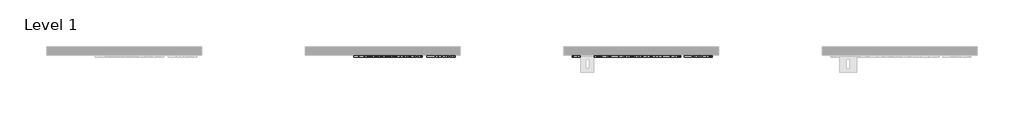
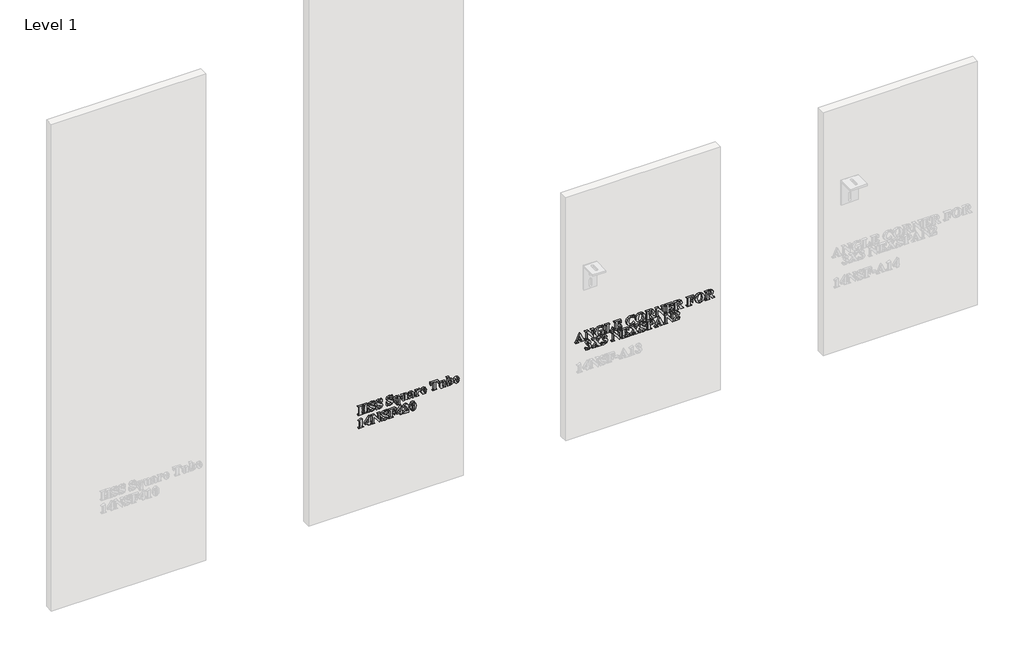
# One storey, part 3 of 21: 3 proxies.
"""IFC4 building model written with IfcOpenShell, lengths in millimetres."""

from ifc_helpers import new_model, si_unit, frame, origin, place, context, project, spatial, polyline, outline, extrude, element, save

model = new_model("IFC4")

# Units and contexts
model_context = context("Model", 3, world=origin())
ifc_project = project(units=[si_unit("LENGTHUNIT", "METRE", prefix="MILLI")], contexts=[model_context])

# Site, building, storey
site = spatial("IfcSite", under=ifc_project)
building = spatial("IfcBuilding", under=site)
storey = spatial("IfcBuildingStorey", under=building, Name="Level 1", Elevation=0.0)

# Proxies
placement = place(None, origin())
element("IfcBuildingElementProxy", 1, Name="2\"\" Arial", ObjectType="2\"\" Arial", at=placement, inside=storey, context=model_context, shape_type="SweptSolid", body=[
    extrude(outline(polyline([(625.0991907, 1089.2007456), (625.0991907, 1107.8156193), (609.1435847, 1107.8156193), (604.559118, 1107.4139591), (602.8139736, 1105.8904203), (602.0522042, 1102.3585804), (602.0522042, 1100.7242388), (600.2793591, 1100.7242388), (600.2793591, 1127.3169155), (602.0522042, 1127.3169155), (602.0522042, 1125.6825739), (602.7585722, 1122.303088), (604.4136893, 1120.6341205), (609.1435847, 1120.2255351), (643.7140644, 1120.2255351), (648.298531, 1120.6271953), (650.0436754, 1122.1507341), (650.8054448, 1125.6825739), (650.8054448, 1127.3169155), (652.5782899, 1127.3169155), (652.5782899, 1100.7242388), (650.8054448, 1100.7242388), (650.8054448, 1102.3585804), (650.0990768, 1105.7380664), (648.4439597, 1107.4070339), (643.7140644, 1107.8156193), (628.6448809, 1107.8156193), (628.6448809, 1089.2007456), (643.7140644, 1089.2007456), (648.298531, 1089.6024058), (650.0436754, 1091.1259446), (650.8054448, 1094.6300838), (650.8054448, 1096.2921261), (652.5782899, 1096.2921261), (652.5782899, 1069.6994494), (650.8054448, 1069.6994494), (650.8054448, 1071.375342), (650.0990768, 1074.7271273), (648.4439597, 1076.3822444), (643.7140644, 1076.7908298), (609.1435847, 1076.7908298), (604.559118, 1076.3891696), (602.8139736, 1074.8933315), (602.0522042, 1071.375342), (602.0522042, 1069.6994494), (600.2793591, 1069.6994494), (600.2793591, 1096.2921261), (602.0522042, 1096.2921261), (602.0522042, 1094.6300838), (602.7585722, 1091.2852237), (604.4136893, 1089.6231814), (609.1435847, 1089.2007456), (625.0991907, 1089.2007456)])), frame((0.0, -15490.3579358, 0.0), z_axis=(0.0, 1.0, 0.0), x_axis=(0.0, 0.0, 1.0)), (0.0, 0.0, 1.0), 12.7),
    extrude(outline(polyline([(653.4647125, 1168.0923531), (653.4647125, 1166.319508), (650.5284378, 1165.2114798), (649.9190223, 1163.5771382), (651.1586288, 1159.8167675), (652.855297, 1155.2669268), (653.4647125, 1150.1838474), (649.1364773, 1138.2517688), (638.6448354, 1133.5218734), (632.0382173, 1135.156215), (626.6019539, 1139.8376341), (620.6947786, 1150.6824601), (616.6504757, 1158.4386575), (613.3817925, 1161.7004155), (609.8222519, 1162.7738178), (604.3859886, 1160.1076249), (602.0522042, 1152.9400676), (606.366589, 1142.0883164), (618.8942328, 1135.2947185), (618.8942328, 1133.5218734), (599.3929366, 1133.5218734), (599.3929366, 1135.2947185), (602.0660546, 1137.1160399), (602.9386268, 1139.2559193), (602.0799049, 1142.3168472), (599.9538758, 1147.8639134), (599.3929366, 1152.5522577), (604.0743557, 1165.61314), (615.2654405, 1170.7516208), (624.365122, 1168.1339042), (632.813837, 1155.4469813), (637.3013512, 1146.3057487), (640.8608918, 1142.386099), (643.9218197, 1141.4996764), (648.7209668, 1143.9234881), (650.8054448, 1150.5024055), (646.6711146, 1160.5162103), (635.7362614, 1166.319508), (635.7362614, 1168.0923531), (653.4647125, 1168.0923531)])), frame((0.0, -15490.3579358, 0.0), z_axis=(0.0, 1.0, 0.0), x_axis=(0.0, 0.0, 1.0)), (0.0, 0.0, 1.0), 12.7),
    extrude(outline(polyline([(653.4647125, 1211.5270584), (653.4647125, 1209.7542133), (650.5284378, 1208.6461851), (649.9190223, 1207.0118435), (651.1586288, 1203.2514728), (652.855297, 1198.701632), (653.4647125, 1193.6185527), (649.1364773, 1181.6864741), (638.6448354, 1176.9565787), (632.0382173, 1178.5909203), (626.6019539, 1183.2723394), (620.6947786, 1194.1171654), (616.6504757, 1201.8733627), (613.3817925, 1205.1351207), (609.8222519, 1206.2085231), (604.3859886, 1203.5423302), (602.0522042, 1196.3747728), (606.366589, 1185.5230217), (618.8942328, 1178.7294238), (618.8942328, 1176.9565787), (599.3929366, 1176.9565787), (599.3929366, 1178.7294238), (602.0660546, 1180.5507452), (602.9386268, 1182.6906246), (602.0799049, 1185.7515525), (599.9538758, 1191.2986186), (599.3929366, 1195.9869629), (604.0743557, 1209.0478453), (615.2654405, 1214.1863261), (624.365122, 1211.5686094), (632.813837, 1198.8816866), (637.3013512, 1189.740454), (640.8608918, 1185.8208043), (643.9218197, 1184.9343817), (648.7209668, 1187.3581934), (650.8054448, 1193.9371108), (646.6711146, 1203.9509156), (635.7362614, 1209.7542133), (635.7362614, 1211.5270584), (653.4647125, 1211.5270584)])), frame((0.0, -15490.3579358, 0.0), z_axis=(0.0, 1.0, 0.0), x_axis=(0.0, 0.0, 1.0)), (0.0, 0.0, 1.0), 12.7),
    extrude(outline(polyline([(653.4647125, 1274.4630599), (653.4647125, 1272.6902148), (650.5284378, 1271.5821866), (649.9190223, 1269.947845), (651.1586288, 1266.1874743), (652.855297, 1261.6376335), (653.4647125, 1256.5545542), (649.1364773, 1244.6224756), (638.6448354, 1239.8925802), (632.0382173, 1241.5269218), (626.6019539, 1246.2083409), (620.6947786, 1257.0531669), (616.6504757, 1264.8093642), (613.3817925, 1268.0711222), (609.8222519, 1269.1445246), (604.3859886, 1266.4783317), (602.0522042, 1259.3107743), (606.366589, 1248.4590232), (618.8942328, 1241.6654253), (618.8942328, 1239.8925802), (599.3929366, 1239.8925802), (599.3929366, 1241.6654253), (602.0660546, 1243.4867467), (602.9386268, 1245.6266261), (602.0799049, 1248.687554), (599.9538758, 1254.2346201), (599.3929366, 1258.9229645), (604.0743557, 1271.9838468), (615.2654405, 1277.1223276), (624.365122, 1274.5046109), (632.813837, 1261.8176881), (637.3013512, 1252.6764555), (640.8608918, 1248.7568058), (643.9218197, 1247.8703832), (648.7209668, 1250.2941949), (650.8054448, 1256.8731123), (646.6711146, 1266.8869171), (635.7362614, 1272.6902148), (635.7362614, 1274.4630599), (653.4647125, 1274.4630599)])), frame((0.0, -15490.3579358, 0.0), z_axis=(0.0, 1.0, 0.0), x_axis=(0.0, 0.0, 1.0)), (0.0, 0.0, 1.0), 12.7),
    extrude(outline(polyline([(604.2544103, 1305.4878494), (589.6422884, 1305.4878494), (586.7683403, 1305.0861891), (585.6395366, 1303.6111266), (585.2101756, 1300.169314), (583.4373305, 1300.169314), (583.4373305, 1319.6706103), (585.2101756, 1319.6706103), (586.7475648, 1316.595832), (591.4151335, 1316.12492), (636.6226839, 1314.864538), (633.0769937, 1309.0335396), (635.7431865, 1304.8645835), (636.6226839, 1299.3244425), (634.0880694, 1290.501768), (626.761233, 1283.9436261), (616.5258225, 1281.5544403), (605.2931867, 1284.68462), (600.8679991, 1289.3452636), (599.3929366, 1295.4324935), (600.7779718, 1301.0834373), (604.2544103, 1305.4878494)]), holes=[polyline([(607.6892977, 1305.4878494), (604.7530229, 1301.935234), (603.8250493, 1298.6180746), (606.013405, 1294.5045199), (617.2460408, 1292.191511), (631.4703528, 1294.8784794), (633.9634162, 1299.6707013), (633.2570483, 1302.1499144), (629.9121882, 1304.7745562), (621.9967117, 1305.4878494), (607.6892977, 1305.4878494)])]), frame((0.0, -15490.3579358, 0.0), z_axis=(0.0, 1.0, 0.0), x_axis=(0.0, 0.0, 1.0)), (0.0, 0.0, 1.0), 12.7),
    extrude(outline(polyline([(635.7362614, 1359.5596253), (635.7362614, 1345.3768644), (633.9634162, 1345.3768644), (632.6891838, 1348.2369622), (627.7584584, 1348.9225546), (609.2959385, 1348.9225546), (605.4178399, 1345.4876672), (604.7114719, 1343.1746584), (605.2724112, 1341.471065), (606.9206031, 1340.3976627), (611.7613013, 1340.0583291), (635.7362614, 1340.0583291), (635.7362614, 1325.8755682), (633.9634162, 1325.8755682), (632.6891838, 1328.7356659), (627.7584584, 1329.4212584), (613.9081059, 1329.4212584), (605.4386154, 1330.1968781), (601.2004075, 1333.2439557), (599.3929366, 1338.4378378), (600.7017949, 1343.9710536), (605.0992818, 1348.9225546), (600.2793591, 1348.9225546), (600.2793591, 1363.1053155), (602.0522042, 1363.1053155), (603.2987359, 1360.2590681), (608.2571621, 1359.5596253), (635.7362614, 1359.5596253)])), frame((0.0, -15490.3579358, 0.0), z_axis=(0.0, 1.0, 0.0), x_axis=(0.0, 0.0, 1.0)), (0.0, 0.0, 1.0), 12.7),
    extrude(outline(polyline([(605.5978944, 1387.9251471), (600.9372508, 1389.8503461), (599.3929366, 1394.2270575), (600.7225704, 1398.4860408), (605.5286427, 1400.9583288), (605.9303029, 1398.7007213), (608.9635301, 1398.5622178), (622.6199776, 1398.5622178), (629.8914126, 1398.022054), (634.4966548, 1394.1093295), (636.6226839, 1385.9306964), (635.3069004, 1377.703587), (631.518829, 1371.5263298), (626.3318721, 1369.3102734), (622.9870119, 1370.944615), (621.5535005, 1375.0166186), (622.8762091, 1378.6938872), (626.0687154, 1380.099698), (629.2542964, 1378.645411), (631.2487472, 1377.5650835), (632.8553881, 1378.5623089), (633.9634162, 1382.8005167), (633.167021, 1385.7090907), (631.3041486, 1387.4611603), (626.1241168, 1387.9251471), (622.4676237, 1387.9251471), (613.7765276, 1372.0664936), (606.4289156, 1368.4238509), (601.4012377, 1370.5221793), (599.3929366, 1375.778388), (605.5978944, 1387.9251471)]), holes=[polyline([(608.2571621, 1387.9251471), (605.5978944, 1383.2298776), (606.6505212, 1380.3905554), (609.8222519, 1379.0609215), (614.0881605, 1380.6398617), (620.0299617, 1387.9251471), (608.2571621, 1387.9251471)])]), frame((0.0, -15490.3579358, 0.0), z_axis=(0.0, 1.0, 0.0), x_axis=(0.0, 0.0, 1.0)), (0.0, 0.0, 1.0), 12.7),
    extrude(outline(polyline([(635.7362614, 1423.3820494), (635.7362614, 1409.1992885), (633.9634162, 1409.1992885), (633.2708986, 1411.4845966), (631.6919584, 1412.4679716), (627.7584584, 1412.7449787), (608.2571621, 1412.7449787), (603.1810079, 1412.01091), (602.0522042, 1409.1992885), (600.2793591, 1409.1992885), (600.2793591, 1426.9277396), (602.0522042, 1426.9277396), (602.592368, 1424.6147307), (603.9635529, 1423.5898046), (606.484317, 1423.3820494), (608.6172713, 1423.3820494), (616.8305303, 1423.3820494), (624.9883879, 1424.7116832), (628.686432, 1427.3016991), (629.2542964, 1430.2241235), (627.5299275, 1431.4914307), (625.9856132, 1434.01912), (627.4260499, 1437.7794907), (631.4842032, 1439.3376554), (635.2791997, 1437.8902935), (636.6226839, 1434.01912), (634.8913899, 1429.1991974), (627.5784038, 1423.3820494), (635.7362614, 1423.3820494)])), frame((0.0, -15490.3579358, 0.0), z_axis=(0.0, 1.0, 0.0), x_axis=(0.0, 0.0, 1.0)), (0.0, 0.0, 1.0), 12.7),
    extrude(outline(polyline([(619.7806553, 1474.7945576), (632.3775509, 1470.327819), (636.6226839, 1460.5563953), (631.4218766, 1448.7905209), (617.4260954, 1443.7697682), (605.4039895, 1447.1769549), (600.8956998, 1452.429701), (599.3929366, 1459.6838231), (602.0106532, 1468.1256129), (611.8028523, 1473.4787741), (606.9483038, 1469.2959677), (605.5978944, 1464.9608074), (608.7142237, 1458.3541893), (619.7806553, 1454.4068388), (619.7806553, 1474.7945576)]), holes=[polyline([(622.439923, 1465.0439095), (623.658754, 1454.4068388), (632.1767208, 1456.7198477), (633.9634162, 1460.0439323), (633.3401504, 1462.232288), (630.1545693, 1464.3583171), (622.439923, 1465.0439095)])]), frame((0.0, -15490.3579358, 0.0), z_axis=(0.0, 1.0, 0.0), x_axis=(0.0, 0.0, 1.0)), (0.0, 0.0, 1.0), 12.7),
    extrude(outline(polyline([(652.5782899, 1545.7083621), (652.5782899, 1499.6143892), (637.5091065, 1499.6143892), (637.5091065, 1501.3872343), (646.7195908, 1505.4869386), (649.0325997, 1512.9107275), (649.0325997, 1516.4564178), (609.1435847, 1516.4564178), (604.559118, 1516.0547576), (602.8139736, 1514.5312188), (602.0522042, 1511.0270796), (602.0522042, 1509.3650373), (600.2793591, 1509.3650373), (600.2793591, 1535.957714), (602.0522042, 1535.957714), (602.0522042, 1534.3095221), (602.7585722, 1530.9438864), (604.4136893, 1529.2887693), (609.1435847, 1528.8663336), (649.0325997, 1528.8663336), (649.0325997, 1532.4120238), (648.3123814, 1537.3427493), (644.7874667, 1541.3039501), (637.5091065, 1543.935517), (637.5091065, 1545.7083621), (652.5782899, 1545.7083621)])), frame((0.0, -15490.3579358, 0.0), z_axis=(0.0, 1.0, 0.0), x_axis=(0.0, 0.0, 1.0)), (0.0, 0.0, 1.0), 12.7),
    extrude(outline(polyline([(635.7362614, 1585.5973772), (635.7362614, 1571.4146163), (633.9634162, 1571.4146163), (632.6891838, 1574.274714), (627.7584584, 1574.9603065), (609.2959385, 1574.9603065), (605.4178399, 1571.5254191), (604.7114719, 1569.2124102), (605.2724112, 1567.5088169), (606.9206031, 1566.4354146), (611.7613013, 1566.0960809), (635.7362614, 1566.0960809), (635.7362614, 1551.91332), (633.9634162, 1551.91332), (632.6891838, 1554.7734178), (627.7584584, 1555.4590103), (613.9081059, 1555.4590103), (605.4386154, 1556.23463), (601.2004075, 1559.2817075), (599.3929366, 1564.4755897), (600.7017949, 1570.0088055), (605.0992818, 1574.9603065), (600.2793591, 1574.9603065), (600.2793591, 1589.1430674), (602.0522042, 1589.1430674), (603.2987359, 1586.29682), (608.2571621, 1585.5973772), (635.7362614, 1585.5973772)])), frame((0.0, -15490.3579358, 0.0), z_axis=(0.0, 1.0, 0.0), x_axis=(0.0, 0.0, 1.0)), (0.0, 0.0, 1.0), 12.7),
    extrude(outline(polyline([(652.5782899, 1609.5307862), (652.5782899, 1595.3480253), (650.8054448, 1595.3480253), (650.1891041, 1597.6679593), (648.5478374, 1598.6721099), (644.6004869, 1598.8937155), (599.3929366, 1600.1679479), (602.9386268, 1605.985096), (600.2239577, 1610.4864605), (599.3929366, 1615.7218937), (601.8513741, 1624.7661739), (609.0050811, 1631.0957849), (619.4482469, 1633.4641952), (628.4648263, 1631.608248), (634.4966548, 1626.4766924), (636.6226839, 1619.4891896), (631.9274144, 1609.5307862), (652.5782899, 1609.5307862)]), holes=[polyline([(628.5617788, 1609.5307862), (632.1905711, 1616.3036085), (630.0299162, 1620.6110681), (619.0050356, 1622.8271245), (607.426141, 1621.822974), (603.1325317, 1619.3229854), (602.0522042, 1615.7218937), (603.4164639, 1611.7468426), (606.9829297, 1609.7800925), (613.0355337, 1609.5307862), (628.5617788, 1609.5307862)])]), frame((0.0, -15490.3579358, 0.0), z_axis=(0.0, 1.0, 0.0), x_axis=(0.0, 0.0, 1.0)), (0.0, 0.0, 1.0), 12.7),
    extrude(outline(polyline([(619.7806553, 1668.9210975), (632.3775509, 1664.4543588), (636.6226839, 1654.6829352), (631.4218766, 1642.9170608), (617.4260954, 1637.896308), (605.4039895, 1641.3034947), (600.8956998, 1646.5562409), (599.3929366, 1653.8103629), (602.0106532, 1662.2521528), (611.8028523, 1667.605314), (606.9483038, 1663.4225075), (605.5978944, 1659.0873472), (608.7142237, 1652.4807291), (619.7806553, 1648.5333787), (619.7806553, 1668.9210975)]), holes=[polyline([(622.439923, 1659.1704493), (623.658754, 1648.5333787), (632.1767208, 1650.8463875), (633.9634162, 1654.1704721), (633.3401504, 1656.3588278), (630.1545693, 1658.4848569), (622.439923, 1659.1704493)])]), frame((0.0, -15490.3579358, 0.0), z_axis=(0.0, 1.0, 0.0), x_axis=(0.0, 0.0, 1.0)), (0.0, 0.0, 1.0), 12.7),
])
element("IfcBuildingElementProxy", 2, Name="2\"\" Arial", ObjectType="2\"\" Arial", at=placement, inside=storey, context=model_context, shape_type="SweptSolid", body=[
    extrude(outline(polyline([(570.9147125, 1093.0026674), (562.0504869, 1073.2451396), (560.2776418, 1073.9099565), (561.5103232, 1078.4667225), (560.873207, 1080.5442753), (559.3565934, 1081.7769567), (554.9591065, 1082.1093652), (528.3664298, 1082.1093652), (522.2999754, 1081.5899769), (520.2501233, 1079.6024514), (519.5022042, 1073.2451396), (517.7293591, 1073.2451396), (517.7293591, 1101.6106614), (519.5022042, 1100.37798), (520.319375, 1095.9043162), (522.4246286, 1094.0691445), (528.3664298, 1093.6328584), (570.9147125, 1093.0026674)])), frame((0.0, -15490.3579358, 0.0), z_axis=(0.0, 1.0, 0.0), x_axis=(0.0, 0.0, 1.0)), (0.0, 0.0, 1.0), 12.7),
    extrude(outline(polyline([(537.2306553, 1110.474887), (529.2528523, 1110.474887), (529.2528523, 1129.0897607), (517.7293591, 1129.0897607), (517.7293591, 1140.6132539), (529.2528523, 1140.6132539), (529.2528523, 1145.0453667), (537.2306553, 1145.0453667), (537.2306553, 1140.6132539), (570.9147125, 1140.6132539), (570.9147125, 1135.5024738), (537.2306553, 1110.474887)]), holes=[polyline([(537.2306553, 1113.1618553), (558.6571506, 1129.0897607), (537.2306553, 1129.0897607), (537.2306553, 1113.1618553)])]), frame((0.0, -15490.3579358, 0.0), z_axis=(0.0, 1.0, 0.0), x_axis=(0.0, 0.0, 1.0)), (0.0, 0.0, 1.0), 12.7),
    extrude(outline(polyline([(570.0282899, 1167.6768426), (570.0282899, 1149.2558738), (568.2554448, 1149.2558738), (567.6529545, 1152.919292), (564.5019993, 1156.5688599), (526.5935847, 1156.5688599), (521.143471, 1155.0106952), (519.5022042, 1149.4774794), (517.7293591, 1149.4774794), (517.7293591, 1167.2059306), (519.5022042, 1166.1117527), (520.9634164, 1161.9358715), (526.5935847, 1160.1145501), (560.0006348, 1160.1145501), (516.8429366, 1193.9371108), (516.8429366, 1195.5714524), (559.3912193, 1195.5714524), (564.8274826, 1196.2293441), (567.1127907, 1198.0645158), (568.2554448, 1202.6628328), (570.0282899, 1202.6628328), (570.0282899, 1184.9343817), (568.2554448, 1184.9343817), (566.0116877, 1190.7653801), (559.3912193, 1192.0257622), (538.9619494, 1192.0257622), (570.0282899, 1167.6768426)])), frame((0.0, -15490.3579358, 0.0), z_axis=(0.0, 1.0, 0.0), x_axis=(0.0, 0.0, 1.0)), (0.0, 0.0, 1.0), 12.7),
    extrude(outline(polyline([(570.9147125, 1243.4382704), (570.9147125, 1241.6654253), (567.9784378, 1240.5573971), (567.3690223, 1238.9230555), (568.6086288, 1235.1626848), (570.305297, 1230.6128441), (570.9147125, 1225.5297647), (566.5864773, 1213.5976861), (556.0948354, 1208.8677907), (549.4882173, 1210.5021323), (544.0519539, 1215.1835514), (538.1447786, 1226.0283774), (534.1004757, 1233.7845748), (530.8317925, 1237.0463328), (527.2722519, 1238.1197351), (521.8359886, 1235.4535422), (519.5022042, 1228.2859848), (523.816589, 1217.4342337), (536.3442328, 1210.6406358), (536.3442328, 1208.8677907), (516.8429366, 1208.8677907), (516.8429366, 1210.6406358), (519.5160546, 1212.4619572), (520.3886268, 1214.6018366), (519.5299049, 1217.6627645), (517.4038758, 1223.2098307), (516.8429366, 1227.898175), (521.5243557, 1240.9590573), (532.7154405, 1246.0975381), (541.815122, 1243.4798215), (550.263837, 1230.7928986), (554.7513512, 1221.651666), (558.3108918, 1217.7320163), (561.3718197, 1216.8455937), (566.1709668, 1219.2694054), (568.2554448, 1225.8483228), (564.1211146, 1235.8621276), (553.1862614, 1241.6654253), (553.1862614, 1243.4382704), (570.9147125, 1243.4382704)])), frame((0.0, -15490.3579358, 0.0), z_axis=(0.0, 1.0, 0.0), x_axis=(0.0, 0.0, 1.0)), (0.0, 0.0, 1.0), 12.7),
    extrude(outline(polyline([(566.4825997, 1270.0309471), (566.4825997, 1274.4630599), (565.8870346, 1283.0225777), (562.1751401, 1289.4352909), (554.0726839, 1292.191511), (554.0726839, 1293.9643561), (570.0282899, 1293.9643561), (570.0282899, 1250.5296509), (568.2554448, 1250.5296509), (568.2554448, 1252.2055435), (567.5490768, 1255.5573288), (565.8939597, 1257.2124459), (561.1640644, 1257.6210313), (526.5935847, 1257.6210313), (522.009118, 1257.2193711), (520.2639736, 1255.723533), (519.5022042, 1252.2055435), (519.5022042, 1250.5296509), (517.7293591, 1250.5296509), (517.7293591, 1277.1223276), (519.5022042, 1277.1223276), (519.5022042, 1275.4602853), (520.2085722, 1272.1154252), (521.8636893, 1270.4533829), (526.5935847, 1270.0309471), (542.5491907, 1270.0309471), (542.5491907, 1271.8037922), (540.1323042, 1278.7151181), (530.1392749, 1282.4408629), (530.1392749, 1284.213708), (558.5047967, 1284.213708), (558.5047967, 1282.4408629), (551.1225588, 1280.5849157), (547.2444602, 1277.101552), (546.0948809, 1271.8037922), (546.0948809, 1270.0309471), (566.4825997, 1270.0309471)])), frame((0.0, -15490.3579358, 0.0), z_axis=(0.0, 1.0, 0.0), x_axis=(0.0, 0.0, 1.0)), (0.0, 0.0, 1.0), 12.7),
    extrude(outline(polyline([(537.2306553, 1298.3964689), (529.2528523, 1298.3964689), (529.2528523, 1317.0113426), (517.7293591, 1317.0113426), (517.7293591, 1328.5348358), (529.2528523, 1328.5348358), (529.2528523, 1332.9669486), (537.2306553, 1332.9669486), (537.2306553, 1328.5348358), (570.9147125, 1328.5348358), (570.9147125, 1323.4240558), (537.2306553, 1298.3964689)]), holes=[polyline([(537.2306553, 1301.0834373), (558.6571506, 1317.0113426), (537.2306553, 1317.0113426), (537.2306553, 1301.0834373)])]), frame((0.0, -15490.3579358, 0.0), z_axis=(0.0, 1.0, 0.0), x_axis=(0.0, 0.0, 1.0)), (0.0, 0.0, 1.0), 12.7),
    extrude(outline(polyline([(517.7293591, 1367.9390885), (532.7985426, 1369.5595798), (529.709914, 1367.4612514), (528.6711375, 1365.4252496), (528.3664298, 1360.0720883), (528.3664298, 1348.9087043), (547.9369778, 1365.6260797), (558.1723882, 1368.4238509), (564.1072643, 1366.5332778), (569.0933911, 1361.3047697), (570.9147125, 1353.9225319), (567.4105733, 1343.9295026), (556.0948354, 1338.9087498), (560.561574, 1343.0777059), (562.0504869, 1348.6593979), (559.3704437, 1355.1344377), (552.6460976, 1357.7867802), (541.2749583, 1354.6843012), (517.7293591, 1336.5126388), (517.7293591, 1367.9390885)])), frame((0.0, -15490.3579358, 0.0), z_axis=(0.0, 1.0, 0.0), x_axis=(0.0, 0.0, 1.0)), (0.0, 0.0, 1.0), 12.7),
    extrude(outline(polyline([(543.8788245, 1412.7449787), (559.5435731, 1410.0995614), (567.8330091, 1404.150835), (570.9147125, 1395.4458885), (567.791458, 1386.7478671), (558.8095045, 1380.6260114), (543.269409, 1378.174499), (531.164201, 1379.8780923), (524.2390248, 1382.9113195), (518.7542852, 1388.4445353), (516.8429366, 1395.4458885), (518.394176, 1401.7200981), (522.5908328, 1406.8724292), (529.3636552, 1410.4873712), (543.8788245, 1412.7449787)]), holes=[polyline([(543.8788245, 1401.2214854), (527.3692044, 1401.0414309), (520.7348856, 1398.9500276), (519.5022042, 1395.6813445), (520.4232527, 1392.4472872), (524.0728205, 1390.5705644), (538.8926976, 1389.6979922), (562.5906507, 1390.2658567), (567.3274712, 1392.4542124), (568.2554448, 1395.4181878), (567.0227635, 1398.9500276), (559.8067298, 1401.0414309), (543.8788245, 1401.2214854)])]), frame((0.0, -15490.3579358, 0.0), z_axis=(0.0, 1.0, 0.0), x_axis=(0.0, 0.0, 1.0)), (0.0, 0.0, 1.0), 12.7),
])
element("IfcBuildingElementProxy", 3, Name="2\"\" Arial", ObjectType="2\"\" Arial", at=placement, inside=storey, context=model_context, shape_type="SweptSolid", body=[
    extrude(outline(polyline([(615.3485426, 2390.1620487), (608.7003734, 2393.0844731), (604.559118, 2394.4695083), (602.869375, 2393.6246368), (602.0522042, 2388.3061015), (600.2793591, 2388.3061015), (600.2793591, 2413.7076479), (602.0522042, 2413.7076479), (603.4095388, 2410.0096038), (610.9025794, 2405.577491), (653.4647125, 2385.9238409), (612.066009, 2367.1012119), (604.3375124, 2362.6344732), (602.0522042, 2358.0153807), (600.2793591, 2358.0153807), (600.2793591, 2375.7853829), (602.0522042, 2375.7853829), (602.9386268, 2370.6607525), (606.0272554, 2368.8879074), (610.0300072, 2369.9682349), (615.3485426, 2372.3781962), (615.3485426, 2390.1620487)]), holes=[polyline([(618.8942328, 2388.6108092), (618.8942328, 2373.9848371), (635.2376487, 2381.3947756), (618.8942328, 2388.6108092)])]), frame((0.0, -15490.3579358, 0.0), z_axis=(0.0, 1.0, 0.0), x_axis=(0.0, 0.0, 1.0)), (0.0, 0.0, 1.0), 12.7),
    extrude(outline(polyline([(652.5782899, 2433.6798561), (652.5782899, 2415.2588873), (650.8054448, 2415.2588873), (650.2029545, 2418.9223056), (647.0519993, 2422.5718734), (609.1435847, 2422.5718734), (603.693471, 2421.0137088), (602.0522042, 2415.480493), (600.2793591, 2415.480493), (600.2793591, 2433.2089441), (602.0522042, 2432.1147663), (603.5134164, 2427.938885), (609.1435847, 2426.1175637), (642.5506348, 2426.1175637), (599.3929366, 2459.9401243), (599.3929366, 2461.5744659), (641.9412193, 2461.5744659), (647.3774826, 2462.2323577), (649.6627907, 2464.0675294), (650.8054448, 2468.6658464), (652.5782899, 2468.6658464), (652.5782899, 2450.9373952), (650.8054448, 2450.9373952), (648.5616877, 2456.7683936), (641.9412193, 2458.0287757), (621.5119494, 2458.0287757), (652.5782899, 2433.6798561)])), frame((0.0, -15490.3579358, 0.0), z_axis=(0.0, 1.0, 0.0), x_axis=(0.0, 0.0, 1.0)), (0.0, 0.0, 1.0), 12.7),
    extrude(outline(polyline([(653.4647125, 2523.6240449), (653.4647125, 2521.8511997), (650.6600161, 2520.2237833), (649.9190223, 2518.2916592), (651.2625064, 2513.9841996), (652.896848, 2508.7072153), (653.4647125, 2501.975944), (651.4564114, 2490.9285566), (645.4315081, 2481.9414092), (636.4945682, 2475.9736386), (625.7501572, 2473.9843817), (613.9773577, 2476.6020983), (606.6505212, 2482.287668), (601.3943125, 2490.6809816), (599.3929366, 2502.6546113), (600.4663389, 2513.5271379), (603.6449948, 2523.6240449), (615.3485426, 2523.6240449), (618.3402187, 2523.9703037), (620.002261, 2525.750074), (620.6670779, 2529.8290028), (622.439923, 2529.8290028), (622.439923, 2504.1227486), (620.6670779, 2505.5354846), (620.0576624, 2508.9288209), (618.6864775, 2510.7709178), (615.3485426, 2511.2141291), (603.6449948, 2511.2141291), (602.4607896, 2507.4329829), (602.0522042, 2503.8457416), (604.7114719, 2495.1269447), (613.0355337, 2489.8153345), (626.2210692, 2488.1671426), (638.3193521, 2489.6837562), (647.5090609, 2494.8499377), (650.8054448, 2503.9980954), (646.961972, 2514.5866899), (635.7362614, 2521.8511997), (635.7362614, 2523.6240449), (653.4647125, 2523.6240449)])), frame((0.0, -15490.3579358, 0.0), z_axis=(0.0, 1.0, 0.0), x_axis=(0.0, 0.0, 1.0)), (0.0, 0.0, 1.0), 12.7),
    extrude(outline(polyline([(619.7806553, 2582.1279336), (619.7806553, 2580.3550885), (610.1269597, 2576.5600919), (605.3416629, 2571.809421), (603.8250493, 2564.9396462), (603.8250493, 2560.6321866), (604.1713081, 2556.0200192), (605.7848742, 2554.2194734), (610.8333277, 2553.7624118), (643.7140644, 2553.7624118), (648.298531, 2554.1363713), (650.0436754, 2555.5491072), (650.8054448, 2558.8177904), (650.8054448, 2560.8537922), (652.5782899, 2560.8537922), (652.5782899, 2534.2611155), (650.8054448, 2534.2611155), (650.8054448, 2535.9370082), (650.0990768, 2539.2887935), (648.4439597, 2540.9439106), (643.7140644, 2541.352496), (609.1435847, 2541.352496), (604.559118, 2540.9508358), (602.8139736, 2539.4549977), (602.0522042, 2535.9370082), (602.0522042, 2534.2611155), (600.2793591, 2534.2611155), (600.2793591, 2580.3550885), (619.7806553, 2582.1279336)])), frame((0.0, -15490.3579358, 0.0), z_axis=(0.0, 1.0, 0.0), x_axis=(0.0, 0.0, 1.0)), (0.0, 0.0, 1.0), 12.7),
    extrude(outline(polyline([(649.0325997, 2606.0613426), (649.0325997, 2610.4934554), (648.3400821, 2618.5266598), (644.7320653, 2624.2191546), (636.6226839, 2627.3354839), (636.6226839, 2629.1083291), (652.5782899, 2629.1083291), (652.5782899, 2586.5600464), (650.8054448, 2586.5600464), (650.8054448, 2588.235939), (649.7805187, 2592.086337), (647.827619, 2593.4713722), (643.7140644, 2593.6514268), (609.1435847, 2593.6514268), (604.559118, 2593.2497666), (602.8139736, 2591.7539285), (602.0522042, 2588.235939), (602.0522042, 2586.5600464), (600.2793591, 2586.5600464), (600.2793591, 2630.3687111), (616.8859317, 2631.3105351), (606.4427659, 2625.1956045), (602.9386268, 2613.8729414), (602.9386268, 2610.8535645), (603.5549675, 2607.7372352), (605.1339076, 2606.4145266), (610.4039667, 2606.0613426), (625.0991907, 2606.0613426), (624.0950401, 2611.068245), (620.1753904, 2614.1014722), (612.6892749, 2615.8119907), (612.6892749, 2617.5848358), (640.1683741, 2617.5848358), (640.1683741, 2615.8119907), (630.9024884, 2613.3050769), (627.7584584, 2606.0613426), (649.0325997, 2606.0613426)])), frame((0.0, -15490.3579358, 0.0), z_axis=(0.0, 1.0, 0.0), x_axis=(0.0, 0.0, 1.0)), (0.0, 0.0, 1.0), 12.7),
    extrude(outline(polyline([(653.4647125, 2707.9999366), (653.4647125, 2706.2270915), (650.7708189, 2705.0775122), (649.9190223, 2702.986109), (651.2209554, 2698.5816969), (653.4647125, 2687.1967072), (649.8012943, 2673.394831), (639.5035572, 2663.0693933), (625.4731502, 2659.246696), (612.2460636, 2662.7162093), (602.710096, 2672.570735), (599.3929366, 2687.1828569), (601.4220132, 2698.1107849), (607.9663047, 2707.113514), (612.4676693, 2707.113514), (605.0785062, 2698.740976), (602.9386268, 2689.9944784), (605.854126, 2680.5208373), (614.4551948, 2675.1469006), (627.0797911, 2673.4294569), (639.8636664, 2675.7563161), (647.1420266, 2681.490362), (649.9190223, 2690.1052812), (646.2625292, 2700.1675623), (635.7362614, 2706.2270915), (635.7362614, 2707.9999366), (653.4647125, 2707.9999366)])), frame((0.0, -15490.3579358, 0.0), z_axis=(0.0, 1.0, 0.0), x_axis=(0.0, 0.0, 1.0)), (0.0, 0.0, 1.0), 12.7),
    extrude(outline(polyline([(653.4647125, 2743.11058), (651.8788471, 2732.5687305), (646.1794271, 2723.8239642), (637.4606302, 2717.9392957), (626.8166344, 2715.9777396), (617.1733265, 2717.4839654), (608.9358294, 2722.0026429), (601.7786598, 2731.2200524), (599.3929366, 2743.6091927), (601.8929252, 2755.9671697), (609.392891, 2765.1741915), (626.8581854, 2770.9359381), (637.4969874, 2769.0038139), (646.2002026, 2763.2074414), (651.884041, 2754.3189777), (653.4647125, 2743.11058)]), holes=[polyline([(650.8054448, 2743.5676416), (648.6863409, 2750.1811849), (641.4356814, 2754.9041551), (625.9440622, 2756.7531772), (611.8444034, 2754.938781), (603.9774032, 2749.869552), (602.0522042, 2743.4983899), (606.5120177, 2734.6757154), (626.2487699, 2730.1605005), (643.4924587, 2733.0829248), (648.9771983, 2737.5046499), (650.8054448, 2743.5676416)])]), frame((0.0, -15490.3579358, 0.0), z_axis=(0.0, 1.0, 0.0), x_axis=(0.0, 0.0, 1.0)), (0.0, 0.0, 1.0), 12.7),
    extrude(outline(polyline([(624.2127681, 2794.8693471), (624.2127681, 2798.3042345), (600.2793591, 2815.0908617), (600.2793591, 2831.2126719), (602.0522042, 2831.2126719), (603.3956884, 2827.9439887), (607.7723998, 2824.7999587), (625.4592998, 2812.3900429), (628.9911397, 2819.3429199), (638.395529, 2823.2348689), (646.5326111, 2820.4717236), (651.2902072, 2813.3387921), (652.5782899, 2799.5369159), (652.5782899, 2775.3680509), (650.8054448, 2775.3680509), (650.2029545, 2780.1533476), (648.5963136, 2781.9469683), (643.7140644, 2782.4594313), (609.1435847, 2782.4594313), (604.2751858, 2781.9469683), (602.6685449, 2780.1741232), (602.0522042, 2775.3680509), (600.2793591, 2775.3680509), (600.2793591, 2801.9607275), (602.0522042, 2801.9607275), (602.6546946, 2797.1754308), (604.2613354, 2795.3818101), (609.1435847, 2794.8693471), (624.2127681, 2794.8693471)]), holes=[polyline([(649.9190223, 2794.8693471), (649.9190223, 2798.9967521), (647.0450741, 2808.0271819), (638.160073, 2810.8249531), (631.4288018, 2809.3014143), (627.862336, 2805.1116827), (626.8720358, 2797.0715531), (626.8720358, 2794.8693471), (649.9190223, 2794.8693471)])]), frame((0.0, -15490.3579358, 0.0), z_axis=(0.0, 1.0, 0.0), x_axis=(0.0, 0.0, 1.0)), (0.0, 0.0, 1.0), 12.7),
    extrude(outline(polyline([(652.5782899, 2850.2984576), (652.5782899, 2831.8774888), (650.8054448, 2831.8774888), (650.2029545, 2835.540907), (647.0519993, 2839.1904749), (609.1435847, 2839.1904749), (603.693471, 2837.6323103), (602.0522042, 2832.0990945), (600.2793591, 2832.0990945), (600.2793591, 2849.8275456), (602.0522042, 2848.7333677), (603.5134164, 2844.5574865), (609.1435847, 2842.7361651), (642.5506348, 2842.7361651), (599.3929366, 2876.5587258), (599.3929366, 2878.1930674), (641.9412193, 2878.1930674), (647.3774826, 2878.8509591), (649.6627907, 2880.6861308), (650.8054448, 2885.2844478), (652.5782899, 2885.2844478), (652.5782899, 2867.5559967), (650.8054448, 2867.5559967), (648.5616877, 2873.3869951), (641.9412193, 2874.6473772), (621.5119494, 2874.6473772), (652.5782899, 2850.2984576)])), frame((0.0, -15490.3579358, 0.0), z_axis=(0.0, 1.0, 0.0), x_axis=(0.0, 0.0, 1.0)), (0.0, 0.0, 1.0), 12.7),
    extrude(outline(polyline([(649.0325997, 2909.2178569), (649.0325997, 2913.6499696), (648.3400821, 2921.6831741), (644.7320653, 2927.3756689), (636.6226839, 2930.4919982), (636.6226839, 2932.2648433), (652.5782899, 2932.2648433), (652.5782899, 2889.7165606), (650.8054448, 2889.7165606), (650.8054448, 2891.3924533), (649.7805187, 2895.2428513), (647.827619, 2896.6278865), (643.7140644, 2896.8079411), (609.1435847, 2896.8079411), (604.559118, 2896.4062809), (602.8139736, 2894.9104428), (602.0522042, 2891.3924533), (602.0522042, 2889.7165606), (600.2793591, 2889.7165606), (600.2793591, 2933.5252254), (616.8859317, 2934.4670494), (606.4427659, 2928.3521188), (602.9386268, 2917.0294556), (602.9386268, 2914.0100788), (603.5549675, 2910.8937495), (605.1339076, 2909.5710409), (610.4039667, 2909.2178569), (625.0991907, 2909.2178569), (624.0950401, 2914.2247593), (620.1753904, 2917.2579865), (612.6892749, 2918.968505), (612.6892749, 2920.7413501), (640.1683741, 2920.7413501), (640.1683741, 2918.968505), (630.9024884, 2916.4615912), (627.7584584, 2909.2178569), (649.0325997, 2909.2178569)])), frame((0.0, -15490.3579358, 0.0), z_axis=(0.0, 1.0, 0.0), x_axis=(0.0, 0.0, 1.0)), (0.0, 0.0, 1.0), 12.7),
    extrude(outline(polyline([(624.2127681, 2960.6303651), (624.2127681, 2964.0652525), (600.2793591, 2980.8518797), (600.2793591, 2996.9736899), (602.0522042, 2996.9736899), (603.3956884, 2993.7050068), (607.7723998, 2990.5609768), (625.4592998, 2978.151061), (628.9911397, 2985.1039379), (638.395529, 2988.9958869), (646.5326111, 2986.2327416), (651.2902072, 2979.0998101), (652.5782899, 2965.2979339), (652.5782899, 2941.1290689), (650.8054448, 2941.1290689), (650.2029545, 2945.9143657), (648.5963136, 2947.7079863), (643.7140644, 2948.2204493), (609.1435847, 2948.2204493), (604.2751858, 2947.7079863), (602.6685449, 2945.9351412), (602.0522042, 2941.1290689), (600.2793591, 2941.1290689), (600.2793591, 2967.7217456), (602.0522042, 2967.7217456), (602.6546946, 2962.9364488), (604.2613354, 2961.1428282), (609.1435847, 2960.6303651), (624.2127681, 2960.6303651)]), holes=[polyline([(649.9190223, 2960.6303651), (649.9190223, 2964.7577702), (647.0450741, 2973.7882), (638.160073, 2976.5859711), (631.4288018, 2975.0624324), (627.862336, 2970.8727008), (626.8720358, 2962.8325712), (626.8720358, 2960.6303651), (649.9190223, 2960.6303651)])]), frame((0.0, -15490.3579358, 0.0), z_axis=(0.0, 1.0, 0.0), x_axis=(0.0, 0.0, 1.0)), (0.0, 0.0, 1.0), 12.7),
    extrude(outline(polyline([(649.0325997, 3037.7491275), (649.0325997, 3042.1812403), (648.4370346, 3050.7407581), (644.7251401, 3057.1534713), (636.6226839, 3059.9096914), (636.6226839, 3061.6825366), (652.5782899, 3061.6825366), (652.5782899, 3018.2478313), (650.8054448, 3018.2478313), (650.8054448, 3019.9237239), (650.0990768, 3023.2755092), (648.4439597, 3024.9306263), (643.7140644, 3025.3392117), (609.1435847, 3025.3392117), (604.559118, 3024.9375515), (602.8139736, 3023.4417135), (602.0522042, 3019.9237239), (602.0522042, 3018.2478313), (600.2793591, 3018.2478313), (600.2793591, 3044.840508), (602.0522042, 3044.840508), (602.0522042, 3043.1784657), (602.7585722, 3039.8336056), (604.4136893, 3038.1715633), (609.1435847, 3037.7491275), (625.0991907, 3037.7491275), (625.0991907, 3039.5219726), (622.6823042, 3046.4332985), (612.6892749, 3050.1590433), (612.6892749, 3051.9318884), (641.0547967, 3051.9318884), (641.0547967, 3050.1590433), (633.6725588, 3048.3030961), (629.7944602, 3044.8197325), (628.6448809, 3039.5219726), (628.6448809, 3037.7491275), (649.0325997, 3037.7491275)])), frame((0.0, -15490.3579358, 0.0), z_axis=(0.0, 1.0, 0.0), x_axis=(0.0, 0.0, 1.0)), (0.0, 0.0, 1.0), 12.7),
    extrude(outline(polyline([(653.4647125, 3094.1339123), (651.8788471, 3083.5920628), (646.1794271, 3074.8472966), (637.4606302, 3068.9626281), (626.8166344, 3067.0010719), (617.1733265, 3068.5072977), (608.9358294, 3073.0259752), (601.7786598, 3082.2433848), (599.3929366, 3094.632525), (601.8929252, 3106.990502), (609.392891, 3116.1975238), (626.8581854, 3121.9592704), (637.4969874, 3120.0271462), (646.2002026, 3114.2307737), (651.884041, 3105.34231), (653.4647125, 3094.1339123)]), holes=[polyline([(650.8054448, 3094.590974), (648.6863409, 3101.2045173), (641.4356814, 3105.9274874), (625.9440622, 3107.7765095), (611.8444034, 3105.9621133), (603.9774032, 3100.8928843), (602.0522042, 3094.5217222), (606.5120177, 3085.6990477), (626.2487699, 3081.1838328), (643.4924587, 3084.1062572), (648.9771983, 3088.5279822), (650.8054448, 3094.590974)])]), frame((0.0, -15490.3579358, 0.0), z_axis=(0.0, 1.0, 0.0), x_axis=(0.0, 0.0, 1.0)), (0.0, 0.0, 1.0), 12.7),
    extrude(outline(polyline([(624.2127681, 3145.8926794), (624.2127681, 3149.3275668), (600.2793591, 3166.114194), (600.2793591, 3182.2360042), (602.0522042, 3182.2360042), (603.3956884, 3178.967321), (607.7723998, 3175.823291), (625.4592998, 3163.4133752), (628.9911397, 3170.3662522), (638.395529, 3174.2582012), (646.5326111, 3171.4950559), (651.2902072, 3164.3621244), (652.5782899, 3150.5602482), (652.5782899, 3126.3913832), (650.8054448, 3126.3913832), (650.2029545, 3131.1766799), (648.5963136, 3132.9703006), (643.7140644, 3133.4827636), (609.1435847, 3133.4827636), (604.2751858, 3132.9703006), (602.6685449, 3131.1974555), (602.0522042, 3126.3913832), (600.2793591, 3126.3913832), (600.2793591, 3152.9840599), (602.0522042, 3152.9840599), (602.6546946, 3148.1987631), (604.2613354, 3146.4051424), (609.1435847, 3145.8926794), (624.2127681, 3145.8926794)]), holes=[polyline([(649.9190223, 3145.8926794), (649.9190223, 3150.0200844), (647.0450741, 3159.0505142), (638.160073, 3161.8482854), (631.4288018, 3160.3247467), (627.862336, 3156.135015), (626.8720358, 3148.0948854), (626.8720358, 3145.8926794), (649.9190223, 3145.8926794)])]), frame((0.0, -15490.3579358, 0.0), z_axis=(0.0, 1.0, 0.0), x_axis=(0.0, 0.0, 1.0)), (0.0, 0.0, 1.0), 12.7),
    extrude(outline(polyline([(564.5485426, 2426.1175637), (558.3782106, 2438.0080912), (548.6206373, 2442.0731697), (542.8796662, 2439.9679161), (540.6151335, 2434.9263878), (543.7314628, 2427.6688031), (547.1524999, 2423.1674386), (547.706514, 2420.7020759), (546.2176011, 2417.6757738), (542.6234346, 2416.3669155), (537.9004645, 2418.624523), (535.2965982, 2428.569076), (536.8114805, 2437.7449345), (541.3561274, 2444.8570905), (548.0648919, 2449.4173191), (556.0721269, 2450.9373952), (564.6177943, 2448.098073), (570.3518402, 2439.8571133), (574.5554222, 2446.2421258), (579.5207736, 2448.2781276), (586.4182491, 2444.6424101), (589.3683741, 2435.4111501), (586.9237869, 2425.4596719), (579.105263, 2419.0261832), (584.0498388, 2428.4167222), (581.6883537, 2434.3654485), (576.0304847, 2436.7546343), (571.3282901, 2435.4734767), (567.8795523, 2432.4333244), (564.5485426, 2426.1175637)])), frame((0.0, -15490.3579358, 0.0), z_axis=(0.0, 1.0, 0.0), x_axis=(0.0, 0.0, 1.0)), (0.0, 0.0, 1.0), 12.7),
    extrude(outline(polyline([(566.5845444, 2488.4718504), (578.4681468, 2497.9593418), (584.2021927, 2502.9731694), (586.1481672, 2505.9371448), (586.7091065, 2509.5936378), (588.4819516, 2509.5936378), (588.4819516, 2490.1615934), (586.7091065, 2490.1615934), (586.2243441, 2493.6241815), (584.88086, 2495.3416252), (583.0110624, 2495.9371903), (575.9473826, 2491.6989825), (569.5069687, 2486.5466514), (579.146814, 2480.2170403), (584.3406962, 2477.2946159), (586.0304392, 2478.1810385), (586.7091065, 2482.5993009), (588.4819516, 2482.5993009), (588.4819516, 2457.059251), (586.7091065, 2457.059251), (585.9334867, 2459.8293215), (584.2021927, 2461.8653233), (579.0775623, 2465.6049185), (559.4377625, 2478.5134469), (546.8616425, 2468.4442407), (539.7425613, 2461.2420575), (537.9558659, 2455.8542704), (536.1830208, 2455.8542704), (536.1830208, 2476.2004381), (537.9558659, 2476.2004381), (538.1774715, 2472.8902039), (539.4655543, 2470.1547592), (541.4046036, 2469.2337108), (547.000146, 2472.8071017), (556.5291885, 2480.4247956), (545.781315, 2487.4884753), (540.4627797, 2490.4524508), (538.8422884, 2489.5660282), (537.9558659, 2485.6463785), (536.1830208, 2485.6463785), (536.1830208, 2510.937122), (537.9558659, 2510.937122), (539.2993501, 2507.3360304), (545.6428115, 2502.2252503), (566.5845444, 2488.4718504)])), frame((0.0, -15490.3579358, 0.0), z_axis=(0.0, 1.0, 0.0), x_axis=(0.0, 0.0, 1.0)), (0.0, 0.0, 1.0), 12.7),
    extrude(outline(polyline([(564.5485426, 2521.8511997), (558.3782106, 2533.7417273), (548.6206373, 2537.8068058), (542.8796662, 2535.7015522), (540.6151335, 2530.6600239), (543.7314628, 2523.4024392), (547.1524999, 2518.9010747), (547.706514, 2516.4357119), (546.2176011, 2513.4094099), (542.6234346, 2512.1005516), (537.9004645, 2514.3581591), (535.2965982, 2524.3027121), (536.8114805, 2533.4785706), (541.3561274, 2540.5907266), (548.0648919, 2545.1509551), (556.0721269, 2546.6710313), (564.6177943, 2543.8317091), (570.3518402, 2535.5907494), (574.5554222, 2541.9757618), (579.5207736, 2544.0117637), (586.4182491, 2540.3760461), (589.3683741, 2531.1447862), (586.9237869, 2521.193308), (579.105263, 2514.7598193), (584.0498388, 2524.1503582), (581.6883537, 2530.0990846), (576.0304847, 2532.4882704), (571.3282901, 2531.2071128), (567.8795523, 2528.1669605), (564.5485426, 2521.8511997)])), frame((0.0, -15490.3579358, 0.0), z_axis=(0.0, 1.0, 0.0), x_axis=(0.0, 0.0, 1.0)), (0.0, 0.0, 1.0), 12.7),
    extrude(outline(polyline([(588.4819516, 2590.5766486), (588.4819516, 2572.1556798), (586.7091065, 2572.1556798), (586.1066161, 2575.819098), (582.955661, 2579.4686659), (545.0472463, 2579.4686659), (539.5971326, 2577.9105013), (537.9558659, 2572.3772855), (536.1830208, 2572.3772855), (536.1830208, 2590.1057366), (537.9558659, 2589.0115587), (539.4170781, 2584.8356775), (545.0472463, 2583.0143561), (578.4542964, 2583.0143561), (535.2965982, 2616.8369168), (535.2965982, 2618.4712584), (577.8448809, 2618.4712584), (583.2811442, 2619.1291501), (585.5664524, 2620.9643218), (586.7091065, 2625.5626388), (588.4819516, 2625.5626388), (588.4819516, 2607.8341877), (586.7091065, 2607.8341877), (584.4653494, 2613.6651861), (577.8448809, 2614.9255682), (557.4156111, 2614.9255682), (588.4819516, 2590.5766486)])), frame((0.0, -15490.3579358, 0.0), z_axis=(0.0, 1.0, 0.0), x_axis=(0.0, 0.0, 1.0)), (0.0, 0.0, 1.0), 12.7),
    extrude(outline(polyline([(584.9362614, 2649.4960479), (584.9362614, 2653.9281606), (584.2437437, 2661.9613651), (580.6357269, 2667.6538599), (572.5263456, 2670.7701892), (572.5263456, 2672.5430343), (588.4819516, 2672.5430343), (588.4819516, 2629.9947516), (586.7091065, 2629.9947516), (586.7091065, 2631.6706443), (585.6841804, 2635.5210422), (583.7312807, 2636.9060775), (579.617726, 2637.0861321), (545.0472463, 2637.0861321), (540.4627797, 2636.6844718), (538.7176353, 2635.1886338), (537.9558659, 2631.6706443), (537.9558659, 2629.9947516), (536.1830208, 2629.9947516), (536.1830208, 2673.8034164), (552.7895933, 2674.7452404), (542.3464276, 2668.6303098), (538.8422884, 2657.3076466), (538.8422884, 2654.2882698), (539.4586291, 2651.1719405), (541.0375693, 2649.8492318), (546.3076284, 2649.4960479), (561.0028523, 2649.4960479), (559.9987018, 2654.5029503), (556.079052, 2657.5361774), (548.5929366, 2659.246696), (548.5929366, 2661.0195411), (576.0720358, 2661.0195411), (576.0720358, 2659.246696), (566.80615, 2656.7397822), (563.66212, 2649.4960479), (584.9362614, 2649.4960479)])), frame((0.0, -15490.3579358, 0.0), z_axis=(0.0, 1.0, 0.0), x_axis=(0.0, 0.0, 1.0)), (0.0, 0.0, 1.0), 12.7),
    extrude(outline(polyline([(566.5845444, 2712.7367571), (578.4681468, 2722.2242485), (584.2021927, 2727.2380761), (586.1481672, 2730.2020515), (586.7091065, 2733.8585446), (588.4819516, 2733.8585446), (588.4819516, 2714.4265001), (586.7091065, 2714.4265001), (586.2243441, 2717.8890882), (584.88086, 2719.6065319), (583.0110624, 2720.2020971), (575.9473826, 2715.9638892), (569.5069687, 2710.8115581), (579.146814, 2704.4819471), (584.3406962, 2701.5595227), (586.0304392, 2702.4459452), (586.7091065, 2706.8642077), (588.4819516, 2706.8642077), (588.4819516, 2681.3241578), (586.7091065, 2681.3241578), (585.9334867, 2684.0942283), (584.2021927, 2686.1302301), (579.0775623, 2689.8698252), (559.4377625, 2702.7783537), (546.8616425, 2692.7091475), (539.7425613, 2685.5069642), (537.9558659, 2680.1191771), (536.1830208, 2680.1191771), (536.1830208, 2700.4653448), (537.9558659, 2700.4653448), (538.1774715, 2697.1551106), (539.4655543, 2694.419666), (541.4046036, 2693.4986176), (547.000146, 2697.0720085), (556.5291885, 2704.6897023), (545.781315, 2711.7533821), (540.4627797, 2714.7173575), (538.8422884, 2713.830935), (537.9558659, 2709.9112852), (536.1830208, 2709.9112852), (536.1830208, 2735.2020288), (537.9558659, 2735.2020288), (539.2993501, 2731.6009371), (545.6428115, 2726.4901571), (566.5845444, 2712.7367571)])), frame((0.0, -15490.3579358, 0.0), z_axis=(0.0, 1.0, 0.0), x_axis=(0.0, 0.0, 1.0)), (0.0, 0.0, 1.0), 12.7),
    extrude(outline(polyline([(589.3683741, 2774.4816283), (589.3683741, 2772.7087832), (586.4320994, 2771.600755), (585.8226839, 2769.9664134), (587.0622905, 2766.2060427), (588.7589586, 2761.6562019), (589.3683741, 2756.5731226), (585.040139, 2744.641044), (574.548497, 2739.9111486), (567.9418789, 2741.5454902), (562.5056156, 2746.2269093), (556.5984403, 2757.0717353), (552.5541373, 2764.8279326), (549.2854542, 2768.0896906), (545.7259136, 2769.163093), (540.2896503, 2766.4969001), (537.9558659, 2759.3293427), (542.2702507, 2748.4775916), (554.7978944, 2741.6839937), (554.7978944, 2739.9111486), (535.2965982, 2739.9111486), (535.2965982, 2741.6839937), (537.9697162, 2743.5053151), (538.8422884, 2745.6451945), (537.9835666, 2748.7061224), (535.8575375, 2754.2531886), (535.2965982, 2758.9415329), (539.9780173, 2772.0024152), (551.1691021, 2777.140896), (560.2687837, 2774.5231794), (568.7174987, 2761.8362565), (573.2050128, 2752.6950239), (576.7645534, 2748.7753742), (579.8254813, 2747.8889516), (584.6246284, 2750.3127633), (586.7091065, 2756.8916807), (582.5747763, 2766.9054855), (571.639923, 2772.7087832), (571.639923, 2774.4816283), (589.3683741, 2774.4816283)])), frame((0.0, -15490.3579358, 0.0), z_axis=(0.0, 1.0, 0.0), x_axis=(0.0, 0.0, 1.0)), (0.0, 0.0, 1.0), 12.7),
    extrude(outline(polyline([(560.1164298, 2800.1878824), (561.030553, 2813.4426697), (565.9266526, 2822.5769772), (574.5623474, 2825.8941366), (584.5069004, 2820.8456831), (588.4819516, 2804.1906343), (588.4819516, 2780.6865862), (586.7091065, 2780.6865862), (586.1066161, 2785.471883), (584.4999753, 2787.2655036), (579.617726, 2787.7779666), (545.0472463, 2787.7779666), (540.1788474, 2787.2655036), (538.5722066, 2785.4926585), (537.9558659, 2780.6865862), (536.1830208, 2780.6865862), (536.1830208, 2807.2792629), (537.9558659, 2807.2792629), (538.5583562, 2802.5078165), (540.1649971, 2800.7003455), (545.0472463, 2800.1878824), (560.1164298, 2800.1878824)]), holes=[polyline([(585.8226839, 2800.1878824), (585.8226839, 2801.9745779), (583.0664638, 2810.5964223), (574.3822928, 2813.4842208), (565.5457679, 2810.5964223), (562.6925953, 2802.3762381), (562.7756975, 2800.1878824), (585.8226839, 2800.1878824)])]), frame((0.0, -15490.3579358, 0.0), z_axis=(0.0, 1.0, 0.0), x_axis=(0.0, 0.0, 1.0)), (0.0, 0.0, 1.0), 12.7),
    extrude(outline(polyline([(551.2522042, 2859.9660036), (544.604035, 2862.8884279), (540.4627797, 2864.2734632), (538.7730367, 2863.4285917), (537.9558659, 2858.1100564), (536.1830208, 2858.1100564), (536.1830208, 2883.5116027), (537.9558659, 2883.5116027), (539.3132004, 2879.8135586), (546.8062411, 2875.3814458), (589.3683741, 2855.7277957), (547.9696707, 2836.9051668), (540.241174, 2832.4384281), (537.9558659, 2827.8193356), (536.1830208, 2827.8193356), (536.1830208, 2845.5893377), (537.9558659, 2845.5893377), (538.8422884, 2840.4647073), (541.930917, 2838.6918622), (545.9336689, 2839.7721897), (551.2522042, 2842.182151), (551.2522042, 2859.9660036)]), holes=[polyline([(554.7978944, 2858.4147641), (554.7978944, 2843.7887919), (571.1413103, 2851.1987305), (554.7978944, 2858.4147641)])]), frame((0.0, -15490.3579358, 0.0), z_axis=(0.0, 1.0, 0.0), x_axis=(0.0, 0.0, 1.0)), (0.0, 0.0, 1.0), 12.7),
    extrude(outline(polyline([(588.4819516, 2903.483811), (588.4819516, 2885.0628422), (586.7091065, 2885.0628422), (586.1066161, 2888.7262604), (582.955661, 2892.3758283), (545.0472463, 2892.3758283), (539.5971326, 2890.8176636), (537.9558659, 2885.2844478), (536.1830208, 2885.2844478), (536.1830208, 2903.012899), (537.9558659, 2901.9187211), (539.4170781, 2897.7428399), (545.0472463, 2895.9215185), (578.4542964, 2895.9215185), (535.2965982, 2929.7440792), (535.2965982, 2931.3784208), (577.8448809, 2931.3784208), (583.2811442, 2932.0363125), (585.5664524, 2933.8714842), (586.7091065, 2938.4698012), (588.4819516, 2938.4698012), (588.4819516, 2920.7413501), (586.7091065, 2920.7413501), (584.4653494, 2926.5723485), (577.8448809, 2927.8327305), (557.4156111, 2927.8327305), (588.4819516, 2903.483811)])), frame((0.0, -15490.3579358, 0.0), z_axis=(0.0, 1.0, 0.0), x_axis=(0.0, 0.0, 1.0)), (0.0, 0.0, 1.0), 12.7),
    extrude(outline(polyline([(536.1830208, 2972.5555186), (551.2522042, 2974.1760098), (548.1635756, 2972.0776814), (547.1247992, 2970.0416796), (546.8200914, 2964.6885184), (546.8200914, 2953.5251343), (566.3906394, 2970.2425097), (576.6260499, 2973.0402809), (582.5609259, 2971.1497078), (587.5470528, 2965.9211998), (589.3683741, 2958.5389619), (585.864235, 2948.5459326), (574.548497, 2943.5251799), (579.0152357, 2947.694136), (580.5041486, 2953.275828), (577.8241054, 2959.7508678), (571.0997593, 2962.4032102), (559.7286199, 2959.3007313), (536.1830208, 2941.1290689), (536.1830208, 2972.5555186)])), frame((0.0, -15490.3579358, 0.0), z_axis=(0.0, 1.0, 0.0), x_axis=(0.0, 0.0, 1.0)), (0.0, 0.0, 1.0), 12.7),
])

save(model, "model.ifc")
